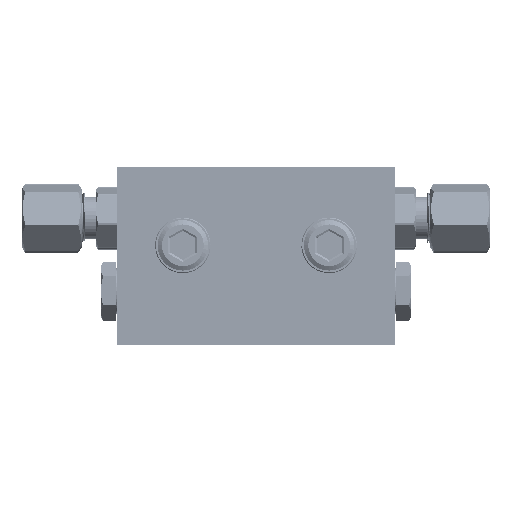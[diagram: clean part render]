
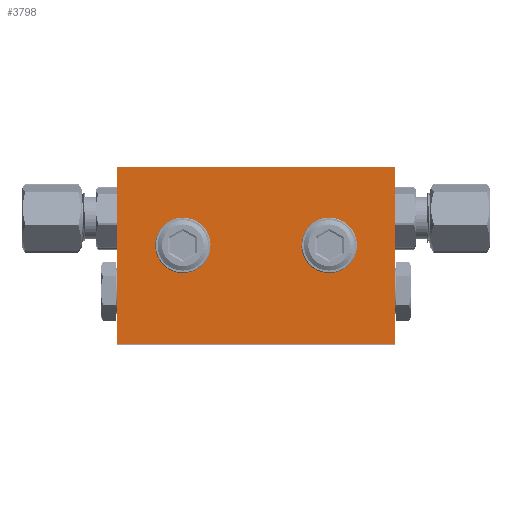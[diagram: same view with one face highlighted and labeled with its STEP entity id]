
A CAD part, top view. The second image highlights one B-rep face of the part: STEP entity #3798.
In plain terms, the highlighted planar face has unit normal (0, 0, 1) as drawn and (0, 0, -1) by its records, which use the part's own axes.
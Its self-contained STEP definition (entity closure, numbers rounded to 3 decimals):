
#958 = DIRECTION ( 'NONE',  ( 1., 0., 0. ) ) ;
#3514 = VECTOR ( 'NONE', #8401, 1000. ) ;
#3798 = ADVANCED_FACE ( 'NONE', ( #40631, #10713, #20514 ), #17478, .F. ) ;
#4006 = CARTESIAN_POINT ( 'NONE',  ( 0., 0., -4.85 ) ) ;
#4013 = CARTESIAN_POINT ( 'NONE',  ( 27.5, -35., -4.85 ) ) ;
#5283 = LINE ( 'NONE', #15041, #32034 ) ;
#5883 = CIRCLE ( 'NONE', #24648, 3.1 ) ;
#6686 = VERTEX_POINT ( 'NONE', #16653 ) ;
#7085 = CARTESIAN_POINT ( 'NONE',  ( -27.5, 0., -4.85 ) ) ;
#7100 = AXIS2_PLACEMENT_3D ( 'NONE', #4006, #14003, #958 ) ;
#7925 = ORIENTED_EDGE ( 'NONE', *, *, #30988, .F. ) ;
#8311 = DIRECTION ( 'NONE',  ( 0., -1., 0. ) ) ;
#8401 = DIRECTION ( 'NONE',  ( 1., 0., 0. ) ) ;
#9108 = DIRECTION ( 'NONE',  ( -1., 0., 0. ) ) ;
#9459 = VECTOR ( 'NONE', #9108, 1000. ) ;
#10713 = FACE_BOUND ( 'NONE', #12801, .T. ) ;
#11628 = VERTEX_POINT ( 'NONE', #42962 ) ;
#11847 = DIRECTION ( 'NONE',  ( 0., 0., -1. ) ) ;
#12801 = EDGE_LOOP ( 'NONE', ( #23195 ) ) ;
#13595 = AXIS2_PLACEMENT_3D ( 'NONE', #28466, #11847, #38515 ) ;
#14003 = DIRECTION ( 'NONE',  ( 0., 0., 1. ) ) ;
#14137 = EDGE_LOOP ( 'NONE', ( #15951, #16656, #20969, #7925 ) ) ;
#15041 = CARTESIAN_POINT ( 'NONE',  ( -27.5, 0., -4.85 ) ) ;
#15951 = ORIENTED_EDGE ( 'NONE', *, *, #31823, .F. ) ;
#16653 = CARTESIAN_POINT ( 'NONE',  ( -27.5, -35., -4.85 ) ) ;
#16656 = ORIENTED_EDGE ( 'NONE', *, *, #31229, .F. ) ;
#17117 = LINE ( 'NONE', #26749, #34027 ) ;
#17478 = PLANE ( 'NONE',  #7100 ) ;
#17507 = VERTEX_POINT ( 'NONE', #7085 ) ;
#17623 = DIRECTION ( 'NONE',  ( 1., 0., 0. ) ) ;
#19984 = CARTESIAN_POINT ( 'NONE',  ( 11.4, -15.5, -4.85 ) ) ;
#20379 = DIRECTION ( 'NONE',  ( 0., 1., 0. ) ) ;
#20514 = FACE_OUTER_BOUND ( 'NONE', #14137, .T. ) ;
#20969 = ORIENTED_EDGE ( 'NONE', *, *, #37061, .F. ) ;
#21073 = CARTESIAN_POINT ( 'NONE',  ( -11.4, -15.5, -4.85 ) ) ;
#21459 = LINE ( 'NONE', #28472, #3514 ) ;
#23072 = LINE ( 'NONE', #39239, #9459 ) ;
#23195 = ORIENTED_EDGE ( 'NONE', *, *, #27427, .F. ) ;
#24185 = DIRECTION ( 'NONE',  ( 0., 0., -1. ) ) ;
#24648 = AXIS2_PLACEMENT_3D ( 'NONE', #37315, #24185, #17623 ) ;
#26749 = CARTESIAN_POINT ( 'NONE',  ( 27.5, 0., -4.85 ) ) ;
#27427 = EDGE_CURVE ( 'NONE', #42917, #42917, #35255, .T. ) ;
#28466 = CARTESIAN_POINT ( 'NONE',  ( 14.5, -15.5, -4.85 ) ) ;
#28472 = CARTESIAN_POINT ( 'NONE',  ( 0., -35., -4.85 ) ) ;
#29890 = EDGE_LOOP ( 'NONE', ( #30284 ) ) ;
#30284 = ORIENTED_EDGE ( 'NONE', *, *, #34741, .F. ) ;
#30988 = EDGE_CURVE ( 'NONE', #37427, #11628, #17117, .T. ) ;
#31229 = EDGE_CURVE ( 'NONE', #17507, #6686, #5283, .T. ) ;
#31823 = EDGE_CURVE ( 'NONE', #6686, #37427, #21459, .T. ) ;
#32034 = VECTOR ( 'NONE', #8311, 1000. ) ;
#34027 = VECTOR ( 'NONE', #20379, 1000. ) ;
#34463 = VERTEX_POINT ( 'NONE', #21073 ) ;
#34741 = EDGE_CURVE ( 'NONE', #34463, #34463, #5883, .T. ) ;
#35255 = CIRCLE ( 'NONE', #13595, 3.1 ) ;
#37061 = EDGE_CURVE ( 'NONE', #11628, #17507, #23072, .T. ) ;
#37315 = CARTESIAN_POINT ( 'NONE',  ( -14.5, -15.5, -4.85 ) ) ;
#37427 = VERTEX_POINT ( 'NONE', #4013 ) ;
#38515 = DIRECTION ( 'NONE',  ( -1., 0., 0. ) ) ;
#39239 = CARTESIAN_POINT ( 'NONE',  ( 0., 0., -4.85 ) ) ;
#40631 = FACE_BOUND ( 'NONE', #29890, .T. ) ;
#42917 = VERTEX_POINT ( 'NONE', #19984 ) ;
#42962 = CARTESIAN_POINT ( 'NONE',  ( 27.5, 0., -4.85 ) ) ;
